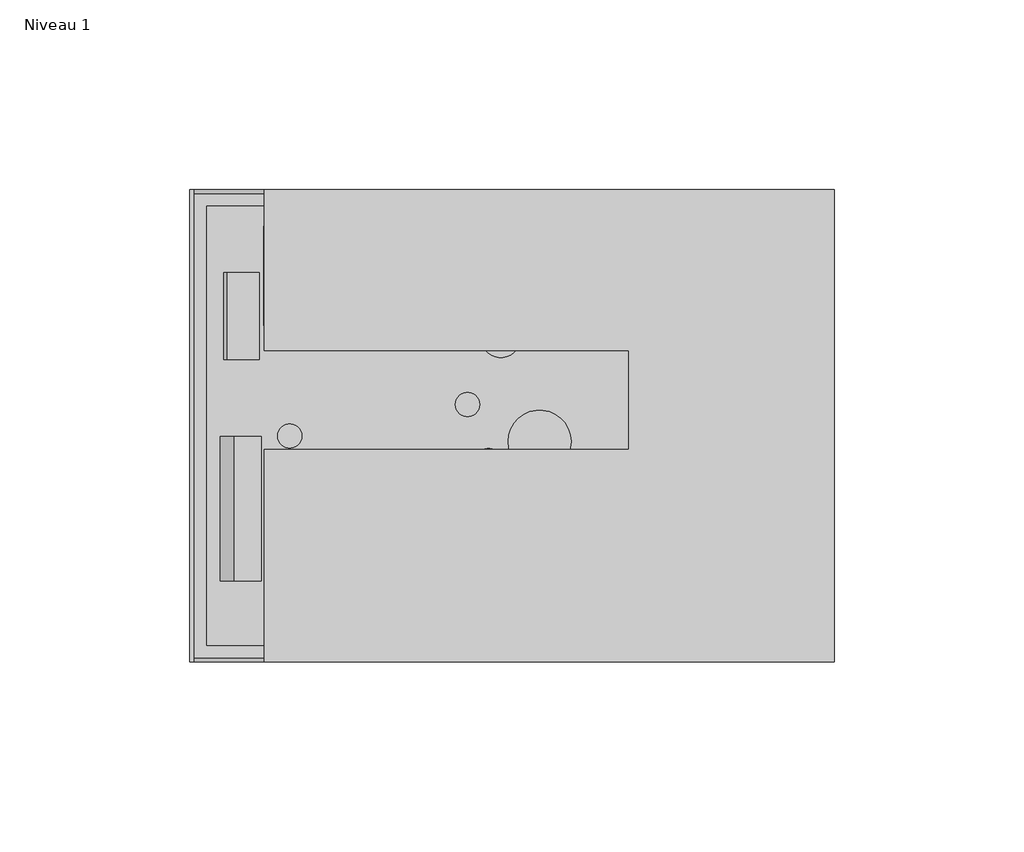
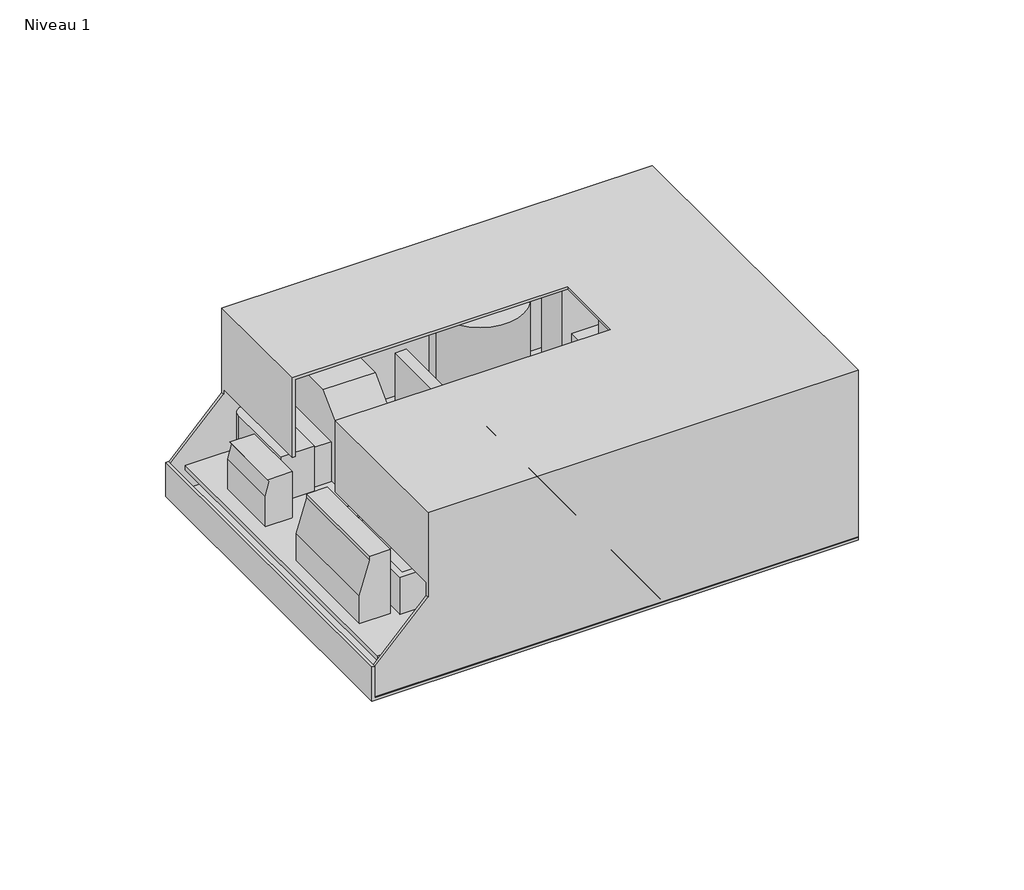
# One storey: 1 proxy.
"""IFC4 building model written with IfcOpenShell, lengths in millimetres."""

import ifcopenshell
import ifcopenshell.guid

model = None  # the IFC model being written
_history = None  # IfcOwnerHistory: only IFC2X3 demands one
_inside = {}  # id of a spatial element -> (the spatial element, [elements in it])
_under = {}  # id of a project, library or spatial element -> (it, [spatial elements below it])
_declared = {}  # id of a project -> (the project, [libraries it declares])
_typed = {}  # id of a type object -> (the type object, [elements of that type])
_made_of = {}  # id of a material, layer set ... -> (it, [elements and type objects made of it])


def new_model(schema):
    """Start an empty IFC model of exactly this schema.

    Asked for "IFC4X3", IfcOpenShell would pick the latest addendum, in which some entities
    have other attributes; the version numbers below select the first issue.
    IFC2X3 requires an IfcOwnerHistory on every rooted entity: one is made here for all.
    """
    global model, _history
    if schema == "IFC4X3":
        model = ifcopenshell.file(schema_version=(4, 3, 0, 0))
    else:
        model = ifcopenshell.file(schema=schema)
    _inside.clear()
    _under.clear()
    _declared.clear()
    _typed.clear()
    _made_of.clear()
    _history = None
    if model.schema == "IFC2X3":
        org = make("IfcOrganization", Name="unknown")
        user = make(
            "IfcPersonAndOrganization",
            ThePerson=make("IfcPerson", FamilyName="unknown"),
            TheOrganization=org,
        )
        app = make(
            "IfcApplication",
            ApplicationDeveloper=org,
            Version="unknown",
            ApplicationFullName="unknown",
            ApplicationIdentifier="unknown",
        )
        _history = make(
            "IfcOwnerHistory",
            OwningUser=user,
            OwningApplication=app,
            ChangeAction="ADDED",
            CreationDate=0,
        )
    return model


def make(cls, **values):
    """One entity of the class cls with the attributes given. An attribute that is None is left unset."""
    return model.create_entity(
        cls, **{name: value for name, value in values.items() if value is not None}
    )


def rooted(cls, **values):
    """An entity with a GlobalId (a new one), such as an element, a storey or a relation."""
    return make(cls, GlobalId=ifcopenshell.guid.new(), OwnerHistory=_history, **values)


def si_unit(unit_type, name, prefix=None):
    """IfcSIUnit, for example si_unit("LENGTHUNIT", "METRE", prefix="MILLI")."""
    return make("IfcSIUnit", UnitType=unit_type, Prefix=prefix, Name=name)


def assignment(units):
    """IfcUnitAssignment: the units of a project."""
    return None if units is None else make("IfcUnitAssignment", Units=units)


def point(xyz):
    """IfcCartesianPoint."""
    return None if xyz is None else make("IfcCartesianPoint", Coordinates=xyz)


def direction(xyz):
    """IfcDirection."""
    return None if xyz is None else make("IfcDirection", DirectionRatios=xyz)


def frame(location, z_axis=None, x_axis=None):
    """IfcAxis2Placement3D, a coordinate frame: its origin and axes. An axis left out is left unset."""
    return make(
        "IfcAxis2Placement3D",
        Location=point(location),
        Axis=direction(z_axis),
        RefDirection=direction(x_axis),
    )


def frame_2d(location, x_axis=None):
    """IfcAxis2Placement2D, a coordinate frame in the plane: its origin and x axis."""
    return make(
        "IfcAxis2Placement2D", Location=point(location), RefDirection=direction(x_axis)
    )


def origin():
    """The frame at (0, 0, 0) with its axes left unset."""
    return frame((0.0, 0.0, 0.0))


def origin_with_axes():
    """The frame at (0, 0, 0) with the z axis (0, 0, 1) and the x axis (1, 0, 0) written out."""
    return frame((0.0, 0.0, 0.0), z_axis=(0.0, 0.0, 1.0), x_axis=(1.0, 0.0, 0.0))


def place(relative_to, where):
    """IfcLocalPlacement: puts the frame where relative to a parent placement (None: the world)."""
    return make(
        "IfcLocalPlacement", PlacementRelTo=relative_to, RelativePlacement=where
    )


def context(
    kind, dimensions, precision=None, world=None, true_north=None, identifier=None
):
    """IfcGeometricRepresentationContext, for example the 3D "Model" context."""
    return make(
        "IfcGeometricRepresentationContext",
        ContextIdentifier=identifier,
        ContextType=kind,
        CoordinateSpaceDimension=dimensions,
        Precision=precision,
        WorldCoordinateSystem=world,
        TrueNorth=true_north,
    )


def project(units=None, contexts=None):
    """IfcProject with its units and contexts."""
    return rooted(
        "IfcProject",
        Name="project",
        RepresentationContexts=contexts,
        UnitsInContext=assignment(units),
    )


def spatial(cls, under=None, at=None, **own):
    """A site, building, storey or space (cls), placed at a placement, below another one or the project."""
    s = rooted(cls, ObjectPlacement=at, **own)
    if under is not None:
        _under.setdefault(under.id(), (under, []))[1].append(s)
    return s


def polyline(points):
    """IfcPolyline through the points."""
    return make("IfcPolyline", Points=[point(p) for p in points])


def circle_curve(where, radius):
    """IfcCircle in the frame where."""
    return make("IfcCircle", Position=where, Radius=radius)


def trimmed(basis, trim1, trim2, sense, master):
    """IfcTrimmedCurve: the piece of a basis curve between two trims."""
    return make(
        "IfcTrimmedCurve",
        BasisCurve=basis,
        Trim1=trim1,
        Trim2=trim2,
        SenseAgreement=sense,
        MasterRepresentation=master,
    )


def segment(curve, same_sense, transition):
    """IfcCompositeCurveSegment."""
    return make(
        "IfcCompositeCurveSegment",
        Transition=transition,
        SameSense=same_sense,
        ParentCurve=curve,
    )


def composite_curve(segments, self_intersect=None):
    """IfcCompositeCurve: segments joined end to end."""
    return make("IfcCompositeCurve", Segments=segments, SelfIntersect=self_intersect)


def outline(outer, holes=None, kind="AREA"):
    """IfcArbitraryClosedProfileDef: a profile drawn as a closed curve; with holes, ...WithVoids."""
    if holes is None:
        return make("IfcArbitraryClosedProfileDef", ProfileType=kind, OuterCurve=outer)
    return make(
        "IfcArbitraryProfileDefWithVoids",
        ProfileType=kind,
        OuterCurve=outer,
        InnerCurves=holes,
    )


def extrude(swept, where, along, depth):
    """IfcExtrudedAreaSolid: the profile swept, set in the frame where, extruded along a direction by depth."""
    return make(
        "IfcExtrudedAreaSolid",
        SweptArea=swept,
        Position=where,
        ExtrudedDirection=direction(along),
        Depth=depth,
    )


def faces_of(points, faces, orient=None, outer=None):
    """IfcFace entities. A face is a list of loops; a loop is a list of indices into points, from 0.

    orient and outer hold one flag for each loop. By default every Orientation is true, the
    first loop of a face is its IfcFaceOuterBound and the others are IfcFaceBound.
    """
    made = []
    for i, loops in enumerate(faces):
        bounds = []
        for j, loop in enumerate(loops):
            is_outer = j == 0 if outer is None else outer[i][j]
            bounds.append(
                make(
                    "IfcFaceOuterBound" if is_outer else "IfcFaceBound",
                    Bound=make("IfcPolyLoop", Polygon=[points[k] for k in loop]),
                    Orientation=True if orient is None else orient[i][j],
                )
            )
        made.append(make("IfcFace", Bounds=bounds))
    return made


def faceted_brep(points, faces, orient=None, outer=None, voids=None):
    """IfcFacetedBrep: a solid bounded by flat faces; with voids (closed shells), ...WithVoids."""
    shared = [point(p) for p in points]
    hull = make("IfcClosedShell", CfsFaces=faces_of(shared, faces, orient, outer))
    if voids is None:
        return make("IfcFacetedBrep", Outer=hull)
    return make(
        "IfcFacetedBrepWithVoids",
        Outer=hull,
        Voids=[
            make(cls, CfsFaces=faces_of(shared, fs, o, b)) for cls, fs, o, b in voids
        ],
    )


def shape(context_of_items, identifier, shape_type, items):
    """IfcShapeRepresentation: the items that make up one representation, for example the "Body"."""
    return make(
        "IfcShapeRepresentation",
        ContextOfItems=context_of_items,
        RepresentationIdentifier=identifier,
        RepresentationType=shape_type,
        Items=items,
    )


def source(mapping_origin, context_of_items, identifier, shape_type, items):
    """IfcRepresentationMap: a shape defined once, which mapped items show again and again."""
    return make(
        "IfcRepresentationMap",
        MappingOrigin=mapping_origin,
        MappedRepresentation=shape(context_of_items, identifier, shape_type, items),
    )


def transform(
    local_origin,
    x_axis=None,
    y_axis=None,
    z_axis=None,
    scale=None,
    scale2=None,
    scale3=None,
    uniform=True,
):
    """IfcCartesianTransformationOperator3D, or its non-uniform kind. x_axis, y_axis, z_axis: its Axis1, 2, 3."""
    if uniform:
        return make(
            "IfcCartesianTransformationOperator3D",
            Axis1=direction(x_axis),
            Axis2=direction(y_axis),
            LocalOrigin=point(local_origin),
            Scale=scale,
            Axis3=direction(z_axis),
        )
    return make(
        "IfcCartesianTransformationOperator3DnonUniform",
        Axis1=direction(x_axis),
        Axis2=direction(y_axis),
        LocalOrigin=point(local_origin),
        Scale=scale,
        Axis3=direction(z_axis),
        Scale2=scale2,
        Scale3=scale3,
    )


def mapped(mapping_source, mapping_target):
    """IfcMappedItem: shows the shape of a source again, moved by a transform."""
    return make(
        "IfcMappedItem", MappingSource=mapping_source, MappingTarget=mapping_target
    )


def made_of(thing, what):
    """Note that an element or type object is made of a material, layer set ...; save() writes the relation."""
    if what is not None:
        _made_of.setdefault(what.id(), (what, []))[1].append(thing)
    return thing


def element(
    cls,
    number,
    at=None,
    inside=None,
    cuts=None,
    type_object=None,
    material=None,
    context=None,
    identifier="Body",
    shape_type=None,
    held_by="IfcProductDefinitionShape",
    body=None,
    shapes=None,
    **own,
):
    """One element of the class cls, such as IfcWall. Its Tag is "e" and its number.

    at: its placement. inside: the storey or other place that contains it. cuts: it is an
    opening in that element (IfcRelVoidsElement). A single representation is given by context,
    identifier, shape_type and body (its items); several are given by shapes. held_by: the class
    of the entity that holds the representations. save() writes the other relations.
    """
    e = rooted(cls, Tag="e%d" % number, ObjectPlacement=at, **own)
    if body is not None:
        shapes = [shape(context, identifier, shape_type, body)]
    if shapes is not None:
        e.Representation = make(held_by, Representations=shapes)
    if inside is not None:
        _inside.setdefault(inside.id(), (inside, []))[1].append(e)
    if cuts is not None:
        rooted(
            "IfcRelVoidsElement", RelatingBuildingElement=cuts, RelatedOpeningElement=e
        )
    if type_object is not None:
        _typed.setdefault(type_object.id(), (type_object, []))[1].append(e)
    return made_of(e, material)


def aggregate(whole, parts):
    """IfcRelAggregates: a whole, such as a stair, and the parts it consists of."""
    return rooted("IfcRelAggregates", RelatingObject=whole, RelatedObjects=parts)


def save(model, path):
    """Write the relations noted so far, then the file.

    IfcRelAggregates (storeys below a building ...), IfcRelContainedInSpatialStructure (elements
    in a storey), IfcRelDefinesByType, IfcRelAssociatesMaterial and IfcRelDeclares: one each for
    every whole, place, type object, material and project.
    """
    for whole, parts in _under.values():
        aggregate(whole, parts)
    for where, things in _inside.values():
        rooted(
            "IfcRelContainedInSpatialStructure",
            RelatedElements=things,
            RelatingStructure=where,
        )
    for kind, things in _typed.values():
        rooted("IfcRelDefinesByType", RelatedObjects=things, RelatingType=kind)
    for what, things in _made_of.values():
        rooted("IfcRelAssociatesMaterial", RelatedObjects=things, RelatingMaterial=what)
    for by, libraries in _declared.values():
        rooted("IfcRelDeclares", RelatingContext=by, RelatedDefinitions=libraries)
    model.write(path)


def electrical_equipment_0b040b00(model_context):
    return source(origin(), model_context, "Body", "SolidModel", [
        extrude(outline(composite_curve([segment(polyline([(-8.5, 24.6027871), (-0.0019531, 24.6027871), (-0.0019531, -25.3972129), (-5.6765266, -25.3972129), (-7.4, -22.3509628), (-6.0792807, -21.6037409), (-7.9333399, -13.04255)]), True, "CONTINUOUS"), segment(trimmed(circle_curve(frame_2d((-7.4927941, -13.4587338)), 0.6060441), [point((-7.9333399, -13.04255))], [point((-6.9004808, -13.3304591))], False, "CARTESIAN"), True, "CONTINUOUS"), segment(polyline([(-6.9004808, -13.3304591), (-4.8862606, -22.6311996)]), True, "CONTINUOUS"), segment(trimmed(circle_curve(frame_2d((-4.1931303, -22.4810915)), 0.7091982), [point((-4.8862606, -22.6311996))], [point((-3.5, -22.6311996))], True, "CARTESIAN"), True, "CONTINUOUS"), segment(polyline([(-3.5, -22.6311996), (-3.5, 18.5341056), (-8.5, 22.1027871), (-8.5, 24.6027871)]), True, "CONTINUOUS")], self_intersect=False)), frame((0.0, -46.9665574, 0.0), z_axis=(0.0, 1.0, 0.0), x_axis=(0.0, 0.0, 1.0)), (0.0, 0.0, 1.0), 99.9220388),
        extrude(outline(polyline([(1.0, 83.339387), (1.0, -85.4038129), (12.5999999, -85.4038129), (12.5999999, -86.4038129), (0.0, -86.4038129), (0.0, 83.339387), (1.0, 83.339387)])), frame((0.0, -59.2811186, 0.0), z_axis=(0.0, 1.0, 0.0), x_axis=(0.0, 0.0, 1.0)), (0.0, 0.0, 1.0), 124.46),
        extrude(outline(polyline([(-82.0072129, 60.8500814), (78.0127871, 60.8500814), (78.0127871, -54.9485186), (-82.0072129, -54.9485186), (-82.0072129, 60.8500814)])), frame((0.0, 0.0, 11.0), z_axis=(0.0, 0.0, 1.0), x_axis=(1.0, 0.0, 0.0)), (0.0, 0.0, 1.0), 1.6),
        extrude(outline(polyline([(37.0171871, -26.0687186), (37.0171871, -37.3209186), (57.9975871, -37.3209186), (57.9975871, -26.0687186), (68.4623871, -26.0687186), (68.4623871, -51.6719186), (55.5083871, -51.6719186), (55.5083871, -40.3181186), (39.5063871, -40.3181186), (39.5063871, -51.6719186), (26.5523871, -51.6719186), (26.5523871, -26.0687186), (37.0171871, -26.0687186)])), origin_with_axes(), (0.0, 0.0, 1.0), 51.1),
        extrude(outline(polyline([(25.9681871, -19.8965186), (25.9681871, -49.8939186), (1.9651871, -49.8939186), (1.9651871, -19.8965186), (25.9681871, -19.8965186)]), holes=[polyline([(24.9681871, -20.8965186), (2.9651871, -20.8965186), (2.9651871, -48.8939186), (24.9681871, -48.8939186), (24.9681871, -20.8965186)])]), origin_with_axes(), (0.0, 0.0, 1.0), 23.6),
        extrude(outline(composite_curve([segment(polyline([(-31.2550865, -45.7422743), (-31.2550865, -33.9312743), (-5.804461, -33.9312743)]), True, "CONTINUOUS"), segment(trimmed(circle_curve(frame_2d((-5.804461, -37.5128489)), 3.5815746), [point((-5.804461, -33.9312743))], [point((-2.2228865, -37.5128489))], False, "CARTESIAN"), True, "CONTINUOUS"), segment(polyline([(-2.2228865, -37.5128489), (-2.2228865, -42.3812111)]), True, "CONTINUOUS"), segment(trimmed(circle_curve(frame_2d((-5.5839497, -42.3812111)), 3.3610632), [point((-2.2228865, -42.3812111))], [point((-5.5839497, -45.7422743))], False, "CARTESIAN"), True, "CONTINUOUS"), segment(polyline([(-5.5839497, -45.7422743), (-31.2550865, -45.7422743)]), True, "CONTINUOUS")], self_intersect=False)), frame((0.0, 0.0, 12.6), z_axis=(0.0, 0.0, 1.0), x_axis=(1.0, 0.0, 0.0)), (0.0, 0.0, 1.0), 16.9),
        extrude(outline(composite_curve([segment(polyline([(-31.2550865, -33.719493), (-31.2550865, -21.908493), (-5.804461, -21.908493)]), True, "CONTINUOUS"), segment(trimmed(circle_curve(frame_2d((-5.804461, -25.4900676)), 3.5815746), [point((-5.804461, -21.908493))], [point((-2.2228865, -25.4900676))], False, "CARTESIAN"), True, "CONTINUOUS"), segment(polyline([(-2.2228865, -25.4900676), (-2.2228865, -30.3584298)]), True, "CONTINUOUS"), segment(trimmed(circle_curve(frame_2d((-5.5839497, -30.3584298)), 3.3610632), [point((-2.2228865, -30.3584298))], [point((-5.5839497, -33.719493))], False, "CARTESIAN"), True, "CONTINUOUS"), segment(polyline([(-5.5839497, -33.719493), (-31.2550865, -33.719493)]), True, "CONTINUOUS")], self_intersect=False)), frame((0.0, 0.0, 12.6), z_axis=(0.0, 0.0, 1.0), x_axis=(1.0, 0.0, 0.0)), (0.0, 0.0, 1.0), 16.9),
        extrude(outline(polyline([(-41.3164129, -6.3329186), (-41.3164129, -39.8355186), (-65.3194129, -39.8355186), (-65.3194129, -6.3329186), (-41.3164129, -6.3329186)]), holes=[polyline([(-43.3164129, -8.3329186), (-63.3194129, -8.3329186), (-63.3194129, -37.8355186), (-43.3164129, -37.8355186), (-43.3164129, -8.3329186)])]), frame((0.0, 0.0, 12.6), z_axis=(0.0, 0.0, 1.0), x_axis=(1.0, 0.0, 0.0)), (0.0, 0.0, 1.0), 14.0),
        extrude(outline(composite_curve([segment(trimmed(circle_curve(frame_2d((-60.0898528, 0.2534011)), 3.2), [point((-63.2898528, 0.2534011))], [point((-56.8898528, 0.2534011))], False, "CARTESIAN"), True, "CONTINUOUS"), segment(trimmed(circle_curve(frame_2d((-60.0898528, 0.2534011)), 3.2), [point((-56.8898528, 0.2534011))], [point((-63.2898528, 0.2534011))], False, "CARTESIAN"), True, "CONTINUOUS")], self_intersect=False)), frame((0.0, 0.0, 12.6), z_axis=(0.0, 0.0, 1.0), x_axis=(1.0, 0.0, 0.0)), (0.0, 0.0, 1.0), 11.7),
        extrude(outline(composite_curve([segment(trimmed(circle_curve(frame_2d((-7.7599187, -6.2013768)), 3.2), [point((-10.9599187, -6.2013768))], [point((-4.5599187, -6.2013768))], False, "CARTESIAN"), True, "CONTINUOUS"), segment(trimmed(circle_curve(frame_2d((-7.7599187, -6.2013768)), 3.2), [point((-4.5599187, -6.2013768))], [point((-10.9599187, -6.2013768))], False, "CARTESIAN"), True, "CONTINUOUS")], self_intersect=False)), frame((0.0, 0.0, 12.6), z_axis=(0.0, 0.0, 1.0), x_axis=(1.0, 0.0, 0.0)), (0.0, 0.0, 1.0), 11.7),
        extrude(outline(composite_curve([segment(trimmed(circle_curve(frame_2d((-13.2523341, 8.537348)), 3.2), [point((-16.4523341, 8.537348))], [point((-10.0523341, 8.537348))], False, "CARTESIAN"), True, "CONTINUOUS"), segment(trimmed(circle_curve(frame_2d((-13.2523341, 8.537348)), 3.2), [point((-10.0523341, 8.537348))], [point((-16.4523341, 8.537348))], False, "CARTESIAN"), True, "CONTINUOUS")], self_intersect=False)), frame((0.0, 0.0, 12.6), z_axis=(0.0, 0.0, 1.0), x_axis=(1.0, 0.0, 0.0)), (0.0, 0.0, 1.0), 11.7),
        extrude(outline(composite_curve([segment(trimmed(circle_curve(frame_2d((-33.7656625, -18.3047851)), 3.2), [point((-36.9656625, -18.3047851))], [point((-30.5656625, -18.3047851))], False, "CARTESIAN"), True, "CONTINUOUS"), segment(trimmed(circle_curve(frame_2d((-33.7656625, -18.3047851)), 3.2), [point((-30.5656625, -18.3047851))], [point((-36.9656625, -18.3047851))], False, "CARTESIAN"), True, "CONTINUOUS")], self_intersect=False)), frame((0.0, 0.0, 12.6), z_axis=(0.0, 0.0, 1.0), x_axis=(1.0, 0.0, 0.0)), (0.0, 0.0, 1.0), 11.7),
        extrude(outline(composite_curve([segment(trimmed(circle_curve(frame_2d((5.7144801, -1.2354138)), 8.3), [point((-2.5855199, -1.2354138))], [point((14.0144801, -1.2354138))], False, "CARTESIAN"), True, "CONTINUOUS"), segment(trimmed(circle_curve(frame_2d((5.7144801, -1.2354138)), 8.3), [point((14.0144801, -1.2354138))], [point((-2.5855199, -1.2354138))], False, "CARTESIAN"), True, "CONTINUOUS")], self_intersect=False)), frame((0.0, 0.0, 12.6), z_axis=(0.0, 0.0, 1.0), x_axis=(1.0, 0.0, 0.0)), (0.0, 0.0, 1.0), 32.6),
        extrude(outline(polyline([(41.2137871, 24.6494814), (71.3777871, 24.6494814), (71.3777871, -12.2455186), (41.2137871, -12.2455186), (41.2137871, 24.6494814)])), frame((0.0, 0.0, 38.5), z_axis=(0.0, 0.0, 1.0), x_axis=(1.0, 0.0, 0.0)), (0.0, 0.0, 1.0), 9.0),
        extrude(outline(polyline([(35.2137871, 30.6494814), (77.2686765, 30.6494814), (77.2686765, -18.2455186), (35.2137871, -18.2455186), (35.2137871, 30.6494814)])), frame((0.0, 0.0, 12.6), z_axis=(0.0, 0.0, 1.0), x_axis=(1.0, 0.0, 0.0)), (0.0, 0.0, 1.0), 25.9),
        extrude(outline(polyline([(37.5505871, 52.5442814), (39.4555871, 52.5442814), (39.4555871, 47.1086814), (41.6907871, 47.1086814), (41.6907871, 52.5442814), (43.9513871, 52.5442814), (43.9513871, 43.5780814), (60.2581871, 43.5780814), (60.2581871, 52.5442814), (62.1885871, 52.5442814), (62.1885871, 47.1086814), (64.4237871, 47.1086814), (64.4237871, 52.5442814), (66.6589871, 52.5442814), (66.6589871, 40.5327358), (37.5505871, 40.5327358), (37.5505871, 52.5442814)])), frame((0.0, 0.0, 12.6), z_axis=(0.0, 0.0, 1.0), x_axis=(1.0, 0.0, 0.0)), (0.0, 0.0, 1.0), 38.9),
        extrude(outline(composite_curve([segment(trimmed(circle_curve(frame_2d((9.5021652, 41.3737503)), 15.3), [point((-5.7978348, 41.3737503))], [point((24.8021652, 41.3737503))], False, "CARTESIAN"), True, "CONTINUOUS"), segment(trimmed(circle_curve(frame_2d((9.5021652, 41.3737503)), 15.3), [point((24.8021652, 41.3737503))], [point((-5.7978348, 41.3737503))], False, "CARTESIAN"), True, "CONTINUOUS")], self_intersect=False)), frame((0.0, 0.0, 12.6), z_axis=(0.0, 0.0, 1.0), x_axis=(1.0, 0.0, 0.0)), (0.0, 0.0, 1.0), 41.3),
        extrude(outline(composite_curve([segment(trimmed(circle_curve(frame_2d((-4.4504275, 26.00576)), 5.1), [point((-9.5504275, 26.00576))], [point((0.6495725, 26.00576))], False, "CARTESIAN"), True, "CONTINUOUS"), segment(trimmed(circle_curve(frame_2d((-4.4504275, 26.00576)), 5.1), [point((0.6495725, 26.00576))], [point((-9.5504275, 26.00576))], False, "CARTESIAN"), True, "CONTINUOUS")], self_intersect=False)), frame((0.0, 0.0, 12.6), z_axis=(0.0, 0.0, 1.0), x_axis=(1.0, 0.0, 0.0)), (0.0, 0.0, 1.0), 20.5),
        extrude(outline(polyline([(-12.5128129, 54.5508814), (-8.6012129, 54.5508814), (-8.6012129, 30.7510814), (-12.5128129, 30.7510814), (-12.5128129, 54.5508814)])), frame((0.0, 0.0, 12.6), z_axis=(0.0, 0.0, 1.0), x_axis=(1.0, 0.0, 0.0)), (0.0, 0.0, 1.0), 21.0),
        extrude(outline(polyline([(47.7700814, 43.4), (55.7700814, 35.4), (55.7700814, 12.6), (28.5666814, 12.6), (28.5666814, 35.4), (36.5666814, 43.4), (47.7700814, 43.4)])), frame((-48.0728129, 0.0, 0.0), z_axis=(1.0, 0.0, 0.0), x_axis=(0.0, 1.0, 0.0)), (0.0, 0.0, 1.0), 18.2372),
        extrude(outline(polyline([(-55.1594129, 31.1320814), (-55.1594129, 57.1670814), (-48.1236129, 57.1670814), (-48.1236129, 31.1320814), (-55.1594129, 31.1320814)])), frame((0.0, 0.0, 12.6), z_axis=(0.0, 0.0, 1.0), x_axis=(1.0, 0.0, 0.0)), (0.0, 0.0, 1.0), 15.0),
        extrude(outline(composite_curve([segment(polyline([(-55.1594129, 29.3540814), (-66.9704129, 29.3540814), (-66.9704129, 54.8047069)]), True, "CONTINUOUS"), segment(trimmed(circle_curve(frame_2d((-63.3888383, 54.8047069)), 3.5815746), [point((-66.9704129, 54.8047069))], [point((-63.3888383, 58.3862814))], False, "CARTESIAN"), True, "CONTINUOUS"), segment(polyline([(-63.3888383, 58.3862814), (-58.5204761, 58.3862814)]), True, "CONTINUOUS"), segment(trimmed(circle_curve(frame_2d((-58.5204761, 55.0252183)), 3.3610632), [point((-58.5204761, 58.3862814))], [point((-55.1594129, 55.0252183))], False, "CARTESIAN"), True, "CONTINUOUS"), segment(polyline([(-55.1594129, 55.0252183), (-55.1594129, 29.3540814)]), True, "CONTINUOUS")], self_intersect=False)), frame((0.0, 0.0, 12.6), z_axis=(0.0, 0.0, 1.0), x_axis=(1.0, 0.0, 0.0)), (0.0, 0.0, 1.0), 16.9),
        extrude(outline(polyline([(29.9, -68.0534825), (29.9, -76.6031933), (28.9972845, -75.9811909), (23.9881372, -77.4129031), (12.6, -77.4129031), (12.6, -68.0534825), (29.9, -68.0534825)])), frame((0.0, 20.4640814, 0.0), z_axis=(0.0, 1.0, 0.0), x_axis=(0.0, 0.0, 1.0)), (0.0, 0.0, 1.0), 22.86),
        extrude(outline(polyline([(34.8669698, -74.7406338), (23.0639317, -78.3496129), (12.6, -78.3496129), (12.6, -67.5563994), (36.4, -67.5563994), (36.4, -74.7406338), (34.8669698, -74.7406338)])), frame((0.0, -37.9559186, 0.0), z_axis=(0.0, 1.0, 0.0), x_axis=(0.0, 0.0, 1.0)), (0.0, 0.0, 1.0), 38.1),
        faceted_brep([(-66.7313235, 22.7472814, 62.7366), (29.2686765, 22.7472814, 62.7366), (29.2686765, -3.3527186, 62.7366), (-66.7313235, -3.3527186, 62.7366), (-66.7313235, -59.2811186, 62.7366), (83.339387, -59.2811186, 62.7366), (83.339387, 65.1788814, 62.7366), (-66.7313235, 65.1788814, 62.7366), (29.2686765, -3.3527186, 61.7366), (29.2686765, 22.7472814, 61.7366), (-65.7313235, 22.7472814, 61.7366), (-65.7313235, 64.1788814, 61.7366), (82.339387, 64.1788814, 61.7366), (82.2686765, -58.2811186, 61.7366), (-65.7313235, -58.2811186, 61.7366), (-65.7313235, -3.3527186, 61.7366), (-66.7313235, 22.7472814, 33.2366), (-65.7313235, 22.7472814, 33.2366), (-65.7313235, -3.3527186, 36.4), (-66.7313235, -3.3527186, 36.4), (-66.7313235, -58.2811186, 36.4), (-66.7313235, -58.2811186, 31.5446781), (-66.7313235, -59.2811186, 31.5446781), (-66.7313235, 65.1788814, 31.5446781), (-66.7313235, 64.1788814, 31.5446781), (-66.7313235, 64.1788814, 33.2366), (-66.7313235, -58.2811186, 0.0), (-66.7313235, -59.2811186, 0.0), (-66.7313235, -59.2811186, 1.0), (-66.7313235, -58.2811186, 1.0), (-66.7313235, 65.1788814, 0.0), (-66.7313235, 64.1788814, 0.0), (-66.7313235, 64.1788814, 1.0), (-66.7313235, 65.1788814, 1.0), (83.339387, 65.1788814, 0.0), (83.339387, -59.2811186, 0.0), (82.2686765, -58.2811186, 0.0), (82.2686765, 64.1788814, 0.0), (-85.3331022, 65.1788814, 1.0), (-85.3331022, 65.1788814, 12.5), (-65.7313235, 64.1788814, 33.2366), (-85.3331022, 64.1788814, 12.5), (-85.3331022, 64.1788814, 1.0), (-85.3331022, -58.2811186, 1.0), (-85.3331022, -58.2811186, 12.5), (-65.7313235, -58.2811186, 36.4), (-85.3331022, -59.2811186, 12.5), (-85.3331022, -59.2811186, 1.0)], [[[0, 1, 2, 3, 4, 5, 6, 7]], [[8, 9, 10, 11, 12, 13, 14, 15]], [[1, 0, 16, 17, 10, 9]], [[2, 1, 9, 8]], [[3, 2, 8, 15, 18, 19]], [[4, 3, 19, 20, 21, 22]], [[0, 7, 23, 24, 25, 16]], [[26, 27, 28, 29]], [[30, 31, 32, 33]], [[34, 35, 27, 26, 36, 37, 31, 30]], [[7, 6, 34, 30, 33, 38, 39, 23]], [[31, 37, 12, 11, 40, 25, 24, 41, 42, 32]], [[37, 36, 13, 12]], [[36, 26, 29, 43, 44, 21, 20, 45, 14, 13]], [[5, 4, 22, 46, 47, 28, 27, 35]], [[6, 5, 35, 34]], [[10, 17, 40, 11]], [[18, 15, 14, 45]], [[40, 17, 16, 25]], [[18, 45, 20, 19]], [[42, 41, 39, 38]], [[42, 38, 33, 32]], [[39, 41, 24, 23]], [[47, 46, 44, 43]], [[47, 43, 29, 28]], [[44, 46, 22, 21]]]),
    ])


model = new_model("IFC4")

# Units and contexts
model_context = context("Model", 3, world=origin())
ifc_project = project(units=[si_unit("LENGTHUNIT", "METRE", prefix="MILLI")], contexts=[model_context])

# Site, building, storey
site = spatial("IfcSite", under=ifc_project)
building = spatial("IfcBuilding", under=site)
storey = spatial("IfcBuildingStorey", under=building, Name="Niveau 1", Elevation=0.0)

# Proxy
placement = place(None, origin())
electrical_equipment_shape = electrical_equipment_0b040b00(model_context)
element("IfcBuildingElementProxy", 1, Name="FITIN 48V 3A CG2 : FITIN 48V 3A CG2", ObjectType="FITIN 48V 3A CG2 : FITIN 48V 3A CG2", at=placement, inside=storey, context=model_context, shape_type="MappedRepresentation", body=[
    mapped(electrical_equipment_shape, transform((-7726.943667, 4598.9713442, 0.0), x_axis=(1.0, 0.0, 0.0), y_axis=(0.0, 1.0, 0.0), z_axis=(0.0, 0.0, 1.0))),
])

save(model, "model.ifc")
